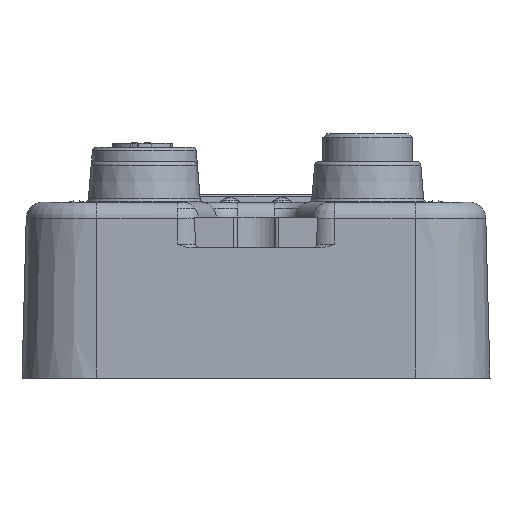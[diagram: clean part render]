
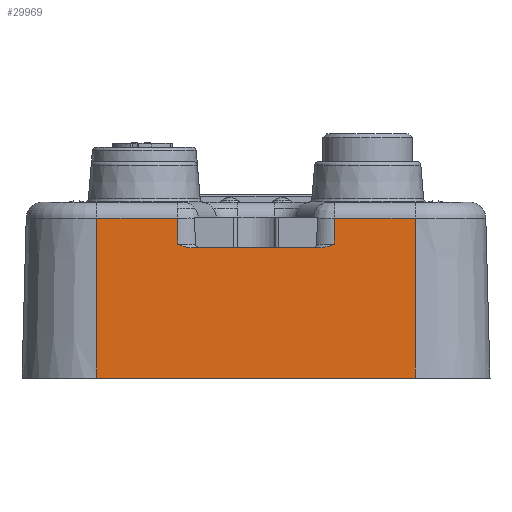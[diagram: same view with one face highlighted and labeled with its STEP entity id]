
A CAD part, front view. The second image highlights one B-rep face of the part: STEP entity #29969.
In plain terms, the highlighted planar face has unit normal (0, -1, 0.026).
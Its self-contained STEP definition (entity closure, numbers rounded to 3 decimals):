
#827=DIRECTION('',(0.,0.026,1.));
#828=VECTOR('',#827,21.365);
#829=CARTESIAN_POINT('',(21.25,-112.75,0.));
#830=LINE('',#829,#828);
#835=CARTESIAN_POINT('',(8.666,-112.294,17.4));
#836=CARTESIAN_POINT('',(8.707,-112.294,17.4));
#837=CARTESIAN_POINT('',(8.794,-112.294,17.402));
#838=CARTESIAN_POINT('',(8.936,-112.294,17.414));
#839=CARTESIAN_POINT('',(9.094,-112.293,17.437));
#840=CARTESIAN_POINT('',(9.268,-112.292,17.472));
#841=CARTESIAN_POINT('',(9.46,-112.291,17.521));
#842=CARTESIAN_POINT('',(9.671,-112.289,17.587));
#843=CARTESIAN_POINT('',(9.904,-112.287,17.669));
#844=CARTESIAN_POINT('',(10.16,-112.285,17.768));
#845=CARTESIAN_POINT('',(10.348,-112.283,17.846));
#846=CARTESIAN_POINT('',(10.447,-112.282,17.887));
#848=DIRECTION('',(0.018,0.026,0.999));
#849=VECTOR('',#848,3.472);
#850=CARTESIAN_POINT('',(10.447,-112.282,17.887));
#851=LINE('',#850,#849);
#852=DIRECTION('',(-1.,0.,0.));
#853=VECTOR('',#852,42.5);
#854=CARTESIAN_POINT('',(21.25,-112.75,0.));
#855=LINE('',#854,#853);
#856=DIRECTION('',(0.018,-0.026,-0.999));
#857=VECTOR('',#856,3.474);
#858=CARTESIAN_POINT('',(-10.51,-112.191,21.359));
#859=LINE('',#858,#857);
#860=CARTESIAN_POINT('',(-10.447,-112.282,17.887));
#861=CARTESIAN_POINT('',(-10.348,-112.283,17.846));
#862=CARTESIAN_POINT('',(-10.16,-112.285,17.768));
#863=CARTESIAN_POINT('',(-9.904,-112.287,17.669));
#864=CARTESIAN_POINT('',(-9.672,-112.289,17.587));
#865=CARTESIAN_POINT('',(-9.46,-112.291,17.522));
#866=CARTESIAN_POINT('',(-9.268,-112.292,17.472));
#867=CARTESIAN_POINT('',(-9.094,-112.293,17.437));
#868=CARTESIAN_POINT('',(-8.936,-112.294,17.414));
#869=CARTESIAN_POINT('',(-8.793,-112.294,17.402));
#870=CARTESIAN_POINT('',(-8.707,-112.294,17.4));
#871=CARTESIAN_POINT('',(-8.666,-112.294,17.4));
#873=DIRECTION('',(1.,0.,0.));
#874=VECTOR('',#873,17.332);
#875=CARTESIAN_POINT('',(-8.666,-112.294,17.4));
#876=LINE('',#875,#874);
#1096=DIRECTION('',(-1.,0.,0.));
#1097=VECTOR('',#1096,10.74);
#1098=CARTESIAN_POINT('',(-10.51,-112.191,
21.359));
#1099=LINE('',#1098,#1097);
#1172=DIRECTION('',(0.,-0.026,-1.));
#1173=VECTOR('',#1172,21.365);
#1174=CARTESIAN_POINT('',(-21.25,-112.191,
21.358));
#1175=LINE('',#1174,#1173);
#1396=DIRECTION('',(-1.,0.,0.));
#1397=VECTOR('',#1396,10.739);
#1398=CARTESIAN_POINT('',(21.25,-112.191,21.358));
#1399=LINE('',#1398,#1397);
#24022=CARTESIAN_POINT('',(21.25,-112.191,21.358));
#24023=VERTEX_POINT('',#24022);
#24024=CARTESIAN_POINT('',(10.511,-112.191,
21.358));
#24025=VERTEX_POINT('',#24024);
#24034=CARTESIAN_POINT('',(-10.511,-112.191,
21.358));
#24036=VERTEX_POINT('',#24034);
#24038=CARTESIAN_POINT('',(-21.25,-112.191,21.358));
#24039=VERTEX_POINT('',#24038);
#24082=CARTESIAN_POINT('',(-21.25,-112.75,0.));
#24083=VERTEX_POINT('',#24082);
#24084=CARTESIAN_POINT('',(21.25,-112.75,0.));
#24085=VERTEX_POINT('',#24084);
#24104=VERTEX_POINT('',#835);
#24105=VERTEX_POINT('',#846);
#24106=CARTESIAN_POINT('',(-10.447,-112.282,
17.887));
#24107=VERTEX_POINT('',#24106);
#24108=VERTEX_POINT('',#871);
#29944=CARTESIAN_POINT('',(-35.072,-112.75,0.));
#29945=DIRECTION('',(0.,-1.,0.026));
#29946=DIRECTION('',(-1.,0.,0.));
#29947=AXIS2_PLACEMENT_3D('',#29944,#29945,#29946);
#29948=PLANE('',#29947);
#29950=ORIENTED_EDGE('',*,*,#29949,.T.);
#29952=ORIENTED_EDGE('',*,*,#29951,.T.);
#29954=ORIENTED_EDGE('',*,*,#29953,.F.);
#29955=ORIENTED_EDGE('',*,*,#29936,.F.);
#29956=ORIENTED_EDGE('',*,*,#29873,.T.);
#29958=ORIENTED_EDGE('',*,*,#29957,.F.);
#29960=ORIENTED_EDGE('',*,*,#29959,.F.);
#29962=ORIENTED_EDGE('',*,*,#29961,.T.);
#29964=ORIENTED_EDGE('',*,*,#29963,.T.);
#29966=ORIENTED_EDGE('',*,*,#29965,.T.);
#29967=EDGE_LOOP('',(#29950,#29952,#29954,#29955,#29956,#29958,#29960,#29962,
#29964,#29966));
#29968=FACE_OUTER_BOUND('',#29967,.F.);
#29969=ADVANCED_FACE('',(#29968),#29948,.T.);
#847=B_SPLINE_CURVE_WITH_KNOTS('',3,(#835,#836,#837,#838,#839,#840,#841,#842,
#843,#844,#845,#846),.UNSPECIFIED.,.F.,.F.,(4,1,1,1,1,1,1,1,1,4),(0.,
0.111,0.222,0.333,0.444,
0.556,0.667,0.778,0.889,1.),
.UNSPECIFIED.);
#872=B_SPLINE_CURVE_WITH_KNOTS('',3,(#860,#861,#862,#863,#864,#865,#866,#867,
#868,#869,#870,#871),.UNSPECIFIED.,.F.,.F.,(4,1,1,1,1,1,1,1,1,4),(0.,
0.111,0.222,0.333,0.444,
0.556,0.667,0.778,0.889,1.),
.UNSPECIFIED.);
#29873=EDGE_CURVE('',#24085,#24083,#855,.T.);
#29936=EDGE_CURVE('',#24085,#24023,#830,.T.);
#29949=EDGE_CURVE('',#24104,#24105,#847,.T.);
#29951=EDGE_CURVE('',#24105,#24025,#851,.T.);
#29953=EDGE_CURVE('',#24023,#24025,#1399,.T.);
#29957=EDGE_CURVE('',#24039,#24083,#1175,.T.);
#29959=EDGE_CURVE('',#24036,#24039,#1099,.T.);
#29961=EDGE_CURVE('',#24036,#24107,#859,.T.);
#29963=EDGE_CURVE('',#24107,#24108,#872,.T.);
#29965=EDGE_CURVE('',#24108,#24104,#876,.T.);
